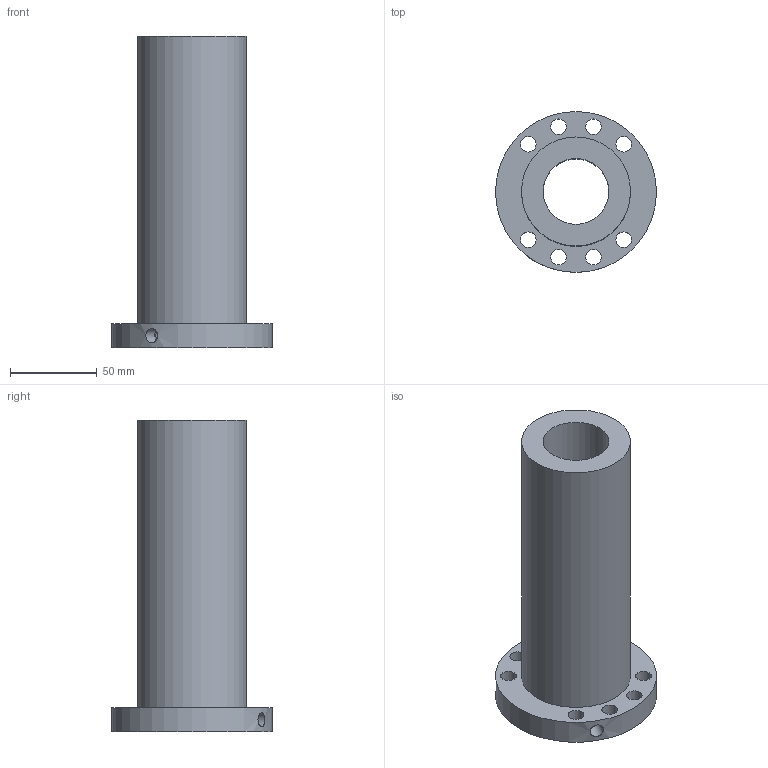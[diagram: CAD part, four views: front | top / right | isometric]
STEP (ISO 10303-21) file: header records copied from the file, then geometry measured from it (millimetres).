
FILE_DESCRIPTION(/* description */ (''),/* implementation_level */ '2;1');
FILE_NAME(/* name */ '38-15K4_635',/* time_stamp */ '2007-10-15T12:53:59+08:00',/* author */ (''),/* organization */ (''),/* preprocessor_version */ 'ST-DEVELOPER v11',/* originating_system */ 'UGS - NX 5.0',/* authorisation */ '');
FILE_SCHEMA (('CONFIG_CONTROL_DESIGN'));
Length unit declared in the file: millimetre
Products named in the file (1): 38-15K4_635
Bounding box: 93 x 93 x 180 mm (x, y, z)
Volume: 400301 mm3; surface area: 72424.7 mm2
Topology: 1 solids, 1 shells, 17 faces, 40 edges, 27 vertices
Faces by surface type: cylinder 13, plane 4
Full cylindrical faces by diameter (mm): 6 x1, 8 x1, 9 x8, 38 x1, 63 x1, 93 x1
Entity records: 668 total; most frequent: CARTESIAN_POINT 184, DIRECTION 84, FACE_BOUND 52, EDGE_LOOP 52, ORIENTED_EDGE 52, AXIS2_PLACEMENT_3D 42, VERTEX_POINT 26, EDGE_CURVE 26
